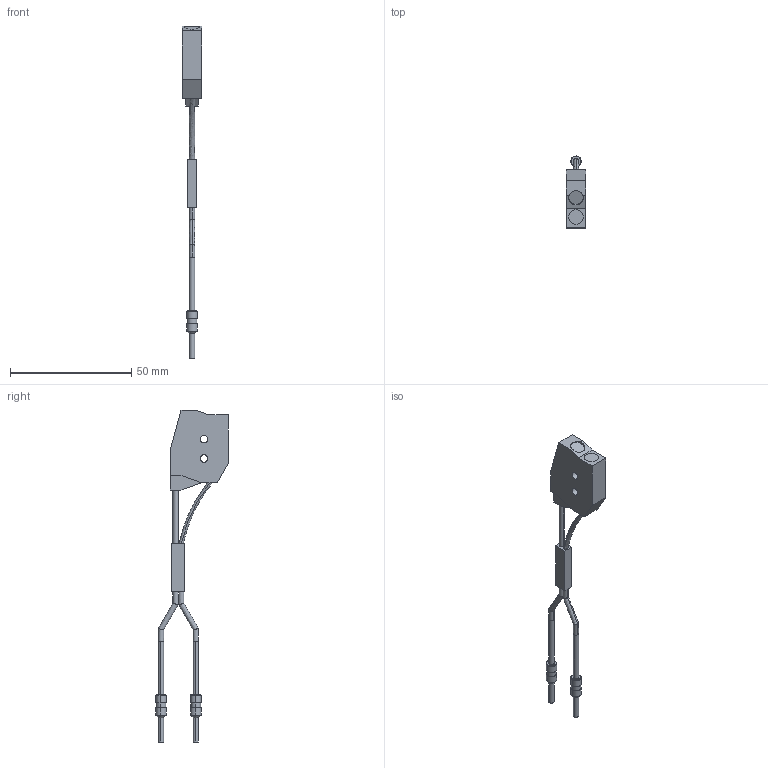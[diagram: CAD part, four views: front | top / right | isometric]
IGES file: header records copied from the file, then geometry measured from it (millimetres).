
Start section: SolidWorks IGES FILE using analytic representation for surfaces
Global section: file name: \\Intra-srv04\開発データ\CAD_Data\CAD委員会\3D電子ｶﾀﾛｸﾞ\製品カタログ（新）\0_IGES\FD-L52.IGS,41HSolidWorks 2004; native system: by SolidWorks Corporation; preprocessor: Version 5.3; author: yk0651; date: 050905.103750; units: millimetre
Bounding box: 8 x 29.91 x 136.9 mm (x, y, z)
Volume: 6313.3 mm3; surface area: 4058.5 mm2
Topology: 3 solids, 3 shells, 90 faces, 197 edges, 124 vertices
Faces by surface type: revolution 50, plane 38, bspline 2
